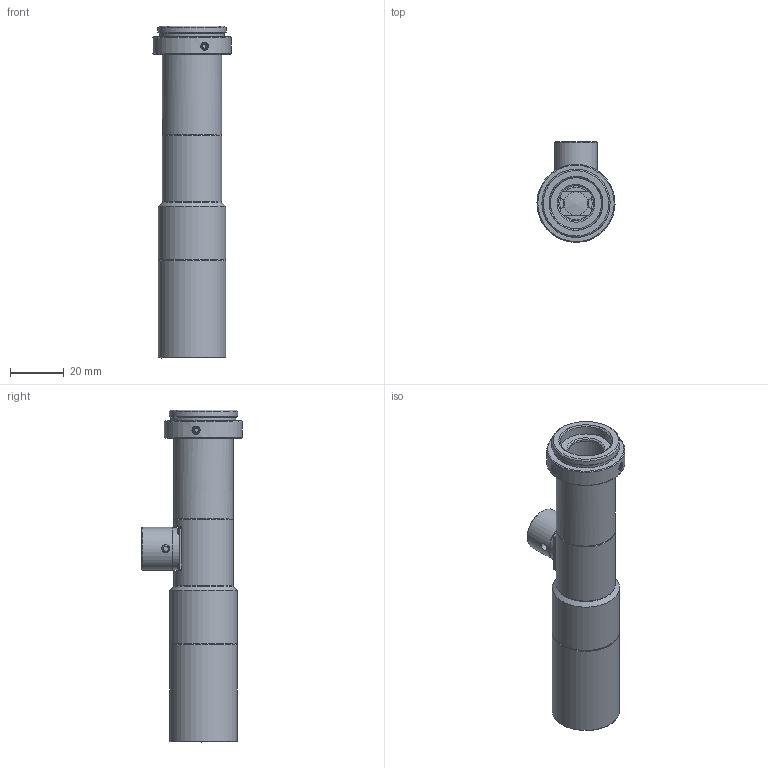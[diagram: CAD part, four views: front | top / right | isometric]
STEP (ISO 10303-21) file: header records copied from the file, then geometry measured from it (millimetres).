
FILE_DESCRIPTION(('STEP AP214'),'1');
FILE_NAME('RTK-08F-170.stp','2026-07-28T08:57:09',(' '),(' '),'Spatial InterOp 3D',' ',' ');
FILE_SCHEMA(('AUTOMOTIVE_DESIGN { 1 0 10303 214 1 1 1 1 }'));
Length unit declared in the file: metre
Products named in the file (2): RTK-08F-170; Component1
Assembly tree (1 placements, depth 2):
  RTK-08F-170
    Component1
Bounding box: 29 x 37.5 x 123.35 mm (x, y, z)
Volume: 27495.7 mm3; surface area: 22134.2 mm2
Topology: 1 solids, 16 shells, 383 faces, 891 edges, 584 vertices
Faces by surface type: plane 188, cone 92, cylinder 86, torus 8, sphere 6, bspline 3
Full cylindrical faces by diameter (mm): 1.7 x8, 1.8 x4, 2.5 x6, 3 x3, 6.5 x1, 8 x1, 8.7 x1, 9 x1, 12.5 x1, 13 x1, 13.4 x1, 14 x1, 14.2 x2, 15 x1, 15.5 x1, 16 x1, 16.4 x1, 17.2 x2, 18 x1, 18.2 x2, 19 x6, 19.02 x1, 20 x2, 20.2 x1, 21.5 x3, 22 x4, 22.2 x1, 22.4 x2, 23 x1, 23.2 x2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
Entity records: 13904 total; most frequent: CARTESIAN_POINT 2799, DIRECTION 1722, ORIENTED_EDGE 1386, AXIS2_PLACEMENT_3D 734, EDGE_CURVE 693, EDGE_LOOP 586, VERTEX_POINT 526, FACE_OUTER_BOUND 462
